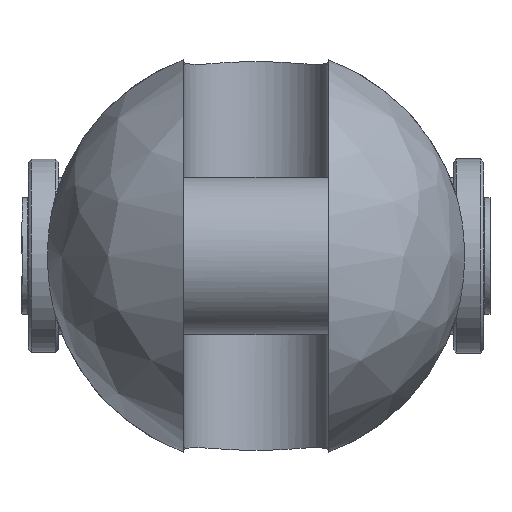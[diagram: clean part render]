
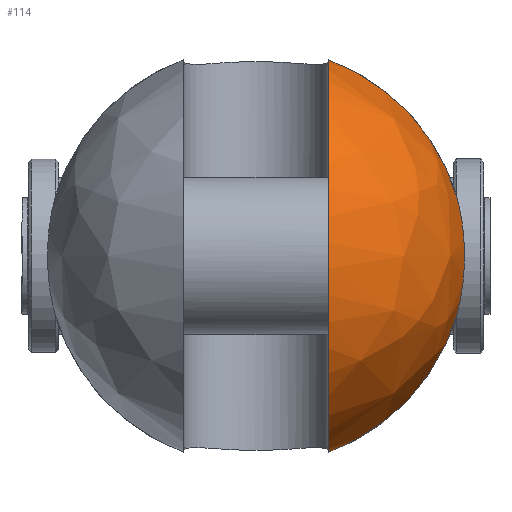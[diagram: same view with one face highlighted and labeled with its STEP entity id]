
A CAD part, left-side view. The second image highlights one B-rep face of the part: STEP entity #114.
In plain terms, the highlighted free-form (B-spline) face has degree [2, 2] with [9, 5] control points.
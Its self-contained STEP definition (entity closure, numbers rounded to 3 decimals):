
#114=ADVANCED_FACE('',(#203),#1555,.T.);
#203=FACE_OUTER_BOUND('',#303,.T.);
#303=EDGE_LOOP('',(#755,#756,#757,#758));
#755=ORIENTED_EDGE('',*,*,#1017,.T.);
#756=ORIENTED_EDGE('',*,*,#1014,.F.);
#757=ORIENTED_EDGE('',*,*,#1032,.T.);
#758=ORIENTED_EDGE('',*,*,#1007,.F.);
#1007=EDGE_CURVE('',#1444,#1445,#1273,.T.);
#1014=EDGE_CURVE('',#1452,#1453,#1274,.T.);
#1017=EDGE_CURVE('',#1444,#1453,#1276,.T.);
#1032=EDGE_CURVE('',#1452,#1445,#1143,.T.);
#1143=B_SPLINE_CURVE_WITH_KNOTS('',3,(#3585,#3586,#3587,#3588,#3589,#3590,
#3591,#3592,#3593,#3594,#3595,#3596,#3597,#3598),.UNSPECIFIED.,.F.,.F.,
(4,2,2,2,2,2,4),(0.,1.521,5.952,10.382,14.812,
19.242,20.764),.UNSPECIFIED.);
#1273=(
BOUNDED_CURVE()
B_SPLINE_CURVE(2,(#3505,#3506,#3507),.UNSPECIFIED.,.F.,.F.)
B_SPLINE_CURVE_WITH_KNOTS((3,3),(0.,32.162),.UNSPECIFIED.)
CURVE()
GEOMETRIC_REPRESENTATION_ITEM()
RATIONAL_B_SPLINE_CURVE((1.,0.893,1.))
REPRESENTATION_ITEM('')
);
#1274=(
BOUNDED_CURVE()
B_SPLINE_CURVE(2,(#3528,#3529,#3530),.UNSPECIFIED.,.F.,.F.)
B_SPLINE_CURVE_WITH_KNOTS((3,3),(0.,32.162),.UNSPECIFIED.)
CURVE()
GEOMETRIC_REPRESENTATION_ITEM()
RATIONAL_B_SPLINE_CURVE((1.,0.893,1.))
REPRESENTATION_ITEM('')
);
#1276=(
BOUNDED_CURVE()
B_SPLINE_CURVE(2,(#3536,#3537,#3538,#3539,#3540),.UNSPECIFIED.,.F.,.F.)
B_SPLINE_CURVE_WITH_KNOTS((3,2,3),(-101.617,-50.809,
0.),.UNSPECIFIED.)
CURVE()
GEOMETRIC_REPRESENTATION_ITEM()
RATIONAL_B_SPLINE_CURVE((1.,0.707,1.,0.707,1.))
REPRESENTATION_ITEM('')
);
#1444=VERTEX_POINT('',#3335);
#1445=VERTEX_POINT('',#3336);
#1452=VERTEX_POINT('',#3343);
#1453=VERTEX_POINT('',#3344);
#1555=(
BOUNDED_SURFACE()
B_SPLINE_SURFACE(2,2,((#3207,#3208,#3209,#3210,#3211),(#3212,#3213,#3214,
#3215,#3216),(#3217,#3218,#3219,#3220,#3221),(#3222,#3223,#3224,#3225,#3226),
(#3227,#3228,#3229,#3230,#3231),(#3232,#3233,#3234,#3235,#3236),(#3237,
#3238,#3239,#3240,#3241),(#3242,#3243,#3244,#3245,#3246),(#3247,#3248,#3249,
#3250,#3251)),.UNSPECIFIED.,.T.,.F.,.F.)
B_SPLINE_SURFACE_WITH_KNOTS((3,2,2,2,3),(3,2,3),(0.,54.192,108.385,
162.577,216.77),(0.,54.192,108.385),
 .UNSPECIFIED.)
GEOMETRIC_REPRESENTATION_ITEM()
RATIONAL_B_SPLINE_SURFACE(((1.,0.707,1.,0.707,1.),
(0.707,0.5,0.707,0.5,0.707),(1.,0.707,
1.,0.707,1.),(0.707,0.5,0.707,0.5,0.707),
(1.,0.707,1.,0.707,1.),(0.707,0.5,0.707,
0.5,0.707),(1.,0.707,1.,0.707,1.),(0.707,
0.5,0.707,0.5,0.707),(1.,0.707,1.,0.707,
1.)))
REPRESENTATION_ITEM('')
SURFACE()
);
#3207=CARTESIAN_POINT('',(-48.5,0.,0.));
#3208=CARTESIAN_POINT('',(-48.5,34.5,0.));
#3209=CARTESIAN_POINT('',(-14.,34.5,0.));
#3210=CARTESIAN_POINT('',(20.5,34.5,0.));
#3211=CARTESIAN_POINT('',(20.5,0.,0.));
#3212=CARTESIAN_POINT('',(-48.5,0.,0.));
#3213=CARTESIAN_POINT('',(-48.5,34.5,34.5));
#3214=CARTESIAN_POINT('',(-14.,34.5,34.5));
#3215=CARTESIAN_POINT('',(20.5,34.5,34.5));
#3216=CARTESIAN_POINT('',(20.5,0.,0.));
#3217=CARTESIAN_POINT('',(-48.5,0.,0.));
#3218=CARTESIAN_POINT('',(-48.5,0.,34.5));
#3219=CARTESIAN_POINT('',(-14.,0.,34.5));
#3220=CARTESIAN_POINT('',(20.5,0.,34.5));
#3221=CARTESIAN_POINT('',(20.5,0.,0.));
#3222=CARTESIAN_POINT('',(-48.5,0.,0.));
#3223=CARTESIAN_POINT('',(-48.5,-34.5,34.5));
#3224=CARTESIAN_POINT('',(-14.,-34.5,34.5));
#3225=CARTESIAN_POINT('',(20.5,-34.5,34.5));
#3226=CARTESIAN_POINT('',(20.5,0.,0.));
#3227=CARTESIAN_POINT('',(-48.5,0.,0.));
#3228=CARTESIAN_POINT('',(-48.5,-34.5,0.));
#3229=CARTESIAN_POINT('',(-14.,-34.5,0.));
#3230=CARTESIAN_POINT('',(20.5,-34.5,0.));
#3231=CARTESIAN_POINT('',(20.5,0.,0.));
#3232=CARTESIAN_POINT('',(-48.5,0.,0.));
#3233=CARTESIAN_POINT('',(-48.5,-34.5,-34.5));
#3234=CARTESIAN_POINT('',(-14.,-34.5,-34.5));
#3235=CARTESIAN_POINT('',(20.5,-34.5,-34.5));
#3236=CARTESIAN_POINT('',(20.5,0.,0.));
#3237=CARTESIAN_POINT('',(-48.5,0.,0.));
#3238=CARTESIAN_POINT('',(-48.5,0.,-34.5));
#3239=CARTESIAN_POINT('',(-14.,0.,-34.5));
#3240=CARTESIAN_POINT('',(20.5,0.,-34.5));
#3241=CARTESIAN_POINT('',(20.5,0.,0.));
#3242=CARTESIAN_POINT('',(-48.5,0.,0.));
#3243=CARTESIAN_POINT('',(-48.5,34.5,-34.5));
#3244=CARTESIAN_POINT('',(-14.,34.5,-34.5));
#3245=CARTESIAN_POINT('',(20.5,34.5,-34.5));
#3246=CARTESIAN_POINT('',(20.5,0.,0.));
#3247=CARTESIAN_POINT('',(-48.5,0.,0.));
#3248=CARTESIAN_POINT('',(-48.5,34.5,0.));
#3249=CARTESIAN_POINT('',(-14.,34.5,0.));
#3250=CARTESIAN_POINT('',(20.5,34.5,0.));
#3251=CARTESIAN_POINT('',(20.5,0.,0.));
#3335=CARTESIAN_POINT('',(-14.,-12.,32.346));
#3336=CARTESIAN_POINT('',(-14.,-33.125,9.644));
#3343=CARTESIAN_POINT('',(-14.,-33.125,-9.644));
#3344=CARTESIAN_POINT('',(-14.,-12.,-32.346));
#3505=CARTESIAN_POINT('',(-14.,-12.,32.346));
#3506=CARTESIAN_POINT('',(-14.,-28.273,26.309));
#3507=CARTESIAN_POINT('',(-14.,-33.125,9.644));
#3528=CARTESIAN_POINT('',(-14.,-33.125,-9.644));
#3529=CARTESIAN_POINT('',(-14.,-28.273,-26.309));
#3530=CARTESIAN_POINT('',(-14.,-12.,-32.346));
#3536=CARTESIAN_POINT('',(-14.,-12.,32.346));
#3537=CARTESIAN_POINT('',(-46.346,-12.,32.346));
#3538=CARTESIAN_POINT('',(-46.346,-12.,0.));
#3539=CARTESIAN_POINT('',(-46.346,-12.,-32.346));
#3540=CARTESIAN_POINT('',(-14.,-12.,-32.346));
#3585=CARTESIAN_POINT('',(-14.,-33.125,-9.644));
#3586=CARTESIAN_POINT('',(-14.277,-33.242,-9.241));
#3587=CARTESIAN_POINT('',(-14.534,-33.35,-8.831));
#3588=CARTESIAN_POINT('',(-15.448,-33.732,-7.229));
#3589=CARTESIAN_POINT('',(-16.038,-33.976,-5.835));
#3590=CARTESIAN_POINT('',(-16.815,-34.294,-2.922));
#3591=CARTESIAN_POINT('',(-17.,-34.369,-1.402));
#3592=CARTESIAN_POINT('',(-17.,-34.369,1.402));
#3593=CARTESIAN_POINT('',(-16.815,-34.294,2.922));
#3594=CARTESIAN_POINT('',(-16.038,-33.976,5.835));
#3595=CARTESIAN_POINT('',(-15.448,-33.732,7.229));
#3596=CARTESIAN_POINT('',(-14.534,-33.35,8.831));
#3597=CARTESIAN_POINT('',(-14.277,-33.242,9.241));
#3598=CARTESIAN_POINT('',(-14.,-33.125,9.644));
